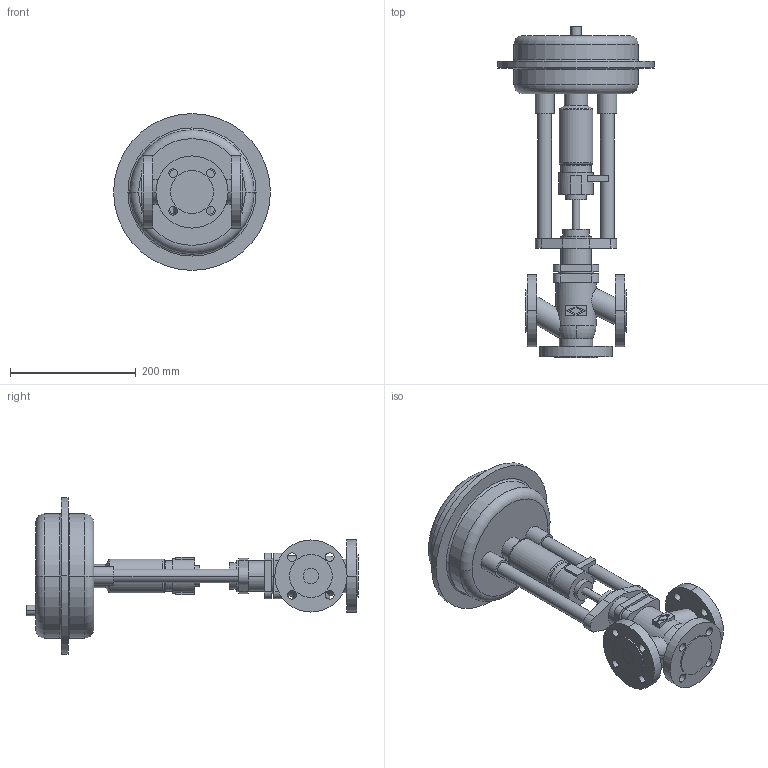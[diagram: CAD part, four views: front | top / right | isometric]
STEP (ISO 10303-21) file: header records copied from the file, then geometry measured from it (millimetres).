
FILE_DESCRIPTION(('OneSpaceDesigner STEP Export'),'2;1');
FILE_NAME('c000000652.stp','2006-09-13T12:58:23',(''),(''),'OneSpace Designer STEP processor for AP214 (Solid Model)','OneSpace Designer 13.20A 18-Aug-2005 (C) CoCreate Software GmbH','');
FILE_SCHEMA(('AUTOMOTIVE_DESIGN { 1 0 10303 214 1 1 1 1 }'));
Length unit declared in the file: millimetre
Products named in the file (2): 1; 2
Bounding box: 250 x 529 x 250 mm (x, y, z)
Volume: 4768666 mm3; surface area: 366168.8 mm2
Topology: 2 solids, 2 shells, 199 faces, 484 edges, 318 vertices
Faces by surface type: cylinder 100, plane 77, torus 18, cone 4
Entity records: 5520 total; most frequent: CARTESIAN_POINT 1202, ORIENTED_EDGE 968, DIRECTION 784, EDGE_CURVE 484, VERTEX_POINT 318, AXIS2_PLACEMENT_3D 285, EDGE_LOOP 252, VECTOR 214
